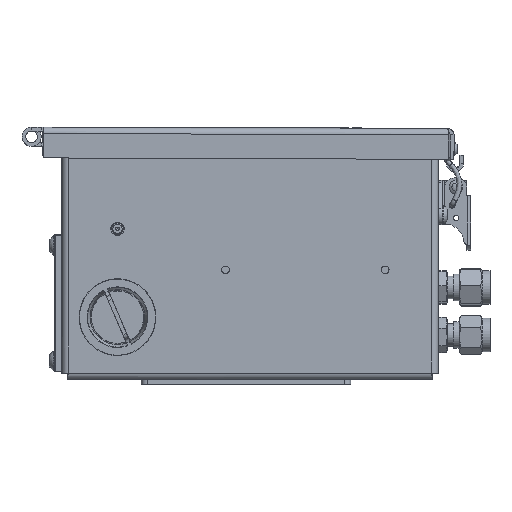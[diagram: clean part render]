
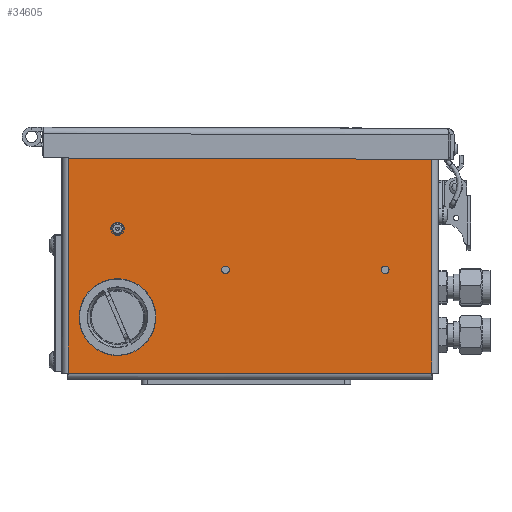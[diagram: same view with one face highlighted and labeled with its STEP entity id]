
A CAD part, front view. The second image highlights one B-rep face of the part: STEP entity #34605.
In plain terms, the highlighted planar face has unit normal (0, -1, 0).
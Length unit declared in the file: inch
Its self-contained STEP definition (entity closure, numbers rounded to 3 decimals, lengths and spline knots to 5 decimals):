
#79 = ORIENTED_EDGE ( 'NONE', *, *, #42367, .T. ) ;
#188 = CIRCLE ( 'NONE', #30347, 0.4375 ) ;
#3290 = EDGE_CURVE ( 'NONE', #29362, #43996, #23630, .T. ) ;
#3475 = EDGE_LOOP ( 'NONE', ( #48882 ) ) ;
#4173 = CIRCLE ( 'NONE', #26308, 0.0625 ) ;
#4290 = CARTESIAN_POINT ( 'NONE',  ( -2.90675, -0.063, -3.75263 ) ) ;
#5143 = LINE ( 'NONE', #25296, #27907 ) ;
#5281 = VERTEX_POINT ( 'NONE', #19300 ) ;
#6674 = CARTESIAN_POINT ( 'NONE',  ( -2.89522, -0.063, -0.10237 ) ) ;
#6987 = CARTESIAN_POINT ( 'NONE',  ( 3.00908, -0.063, 0. ) ) ;
#7204 = DIRECTION ( 'NONE',  ( 0., 0., -1. ) ) ;
#8878 = EDGE_CURVE ( 'NONE', #42762, #42762, #33193, .T. ) ;
#9061 = DIRECTION ( 'NONE',  ( 0., 0., -1. ) ) ;
#9096 = CARTESIAN_POINT ( 'NONE',  ( 3.02504, -0.063, -3.75263 ) ) ;
#9378 = FACE_BOUND ( 'NONE', #56620, .T. ) ;
#10327 = EDGE_LOOP ( 'NONE', ( #28943 ) ) ;
#11863 = EDGE_CURVE ( 'NONE', #48759, #48759, #4173, .T. ) ;
#12878 = DIRECTION ( 'NONE',  ( 0., 0., -1. ) ) ;
#12951 = EDGE_LOOP ( 'NONE', ( #59622, #33684, #60794, #24351, #41969, #24502, #26028, #57595, #39700, #79 ) ) ;
#12994 = DIRECTION ( 'NONE',  ( -1., 0., 0. ) ) ;
#14764 = FACE_BOUND ( 'NONE', #16223, .T. ) ;
#16120 = DIRECTION ( 'NONE',  ( 0., 0., -1. ) ) ;
#16223 = EDGE_LOOP ( 'NONE', ( #52543 ) ) ;
#16914 = DIRECTION ( 'NONE',  ( 0., 0., -1. ) ) ;
#17116 = LINE ( 'NONE', #45504, #32332 ) ;
#18127 = CIRCLE ( 'NONE', #60430, 0.0625 ) ;
#18558 = ORIENTED_EDGE ( 'NONE', *, *, #20636, .F. ) ;
#18628 = EDGE_CURVE ( 'NONE', #39495, #46887, #17116, .T. ) ;
#18827 = VECTOR ( 'NONE', #28010, 39.37008 ) ;
#19300 = CARTESIAN_POINT ( 'NONE',  ( 3.00908, -0.063, -0.09647 ) ) ;
#20636 = EDGE_CURVE ( 'NONE', #23677, #23677, #188, .T. ) ;
#20897 = VERTEX_POINT ( 'NONE', #6674 ) ;
#21622 = LINE ( 'NONE', #40534, #42964 ) ;
#22056 = LINE ( 'NONE', #50147, #53965 ) ;
#23630 = LINE ( 'NONE', #42878, #36360 ) ;
#23677 = VERTEX_POINT ( 'NONE', #58346 ) ;
#24157 = CARTESIAN_POINT ( 'NONE',  ( 3.00908, -0.063, -3.855 ) ) ;
#24351 = ORIENTED_EDGE ( 'NONE', *, *, #39658, .T. ) ;
#24502 = ORIENTED_EDGE ( 'NONE', *, *, #53811, .T. ) ;
#24754 = CARTESIAN_POINT ( 'NONE',  ( 2.26641, -0.063, -2.1355 ) ) ;
#25296 = CARTESIAN_POINT ( 'NONE',  ( 3.02504, -0.063, -3.76416 ) ) ;
#25481 = CARTESIAN_POINT ( 'NONE',  ( -2.09159, -0.063, -1.405 ) ) ;
#25846 = DIRECTION ( 'NONE',  ( 0., 0., -1. ) ) ;
#26028 = ORIENTED_EDGE ( 'NONE', *, *, #3290, .F. ) ;
#26308 = AXIS2_PLACEMENT_3D ( 'NONE', #60799, #56089, #12878 ) ;
#26747 = CARTESIAN_POINT ( 'NONE',  ( 3.02504, -0.063, -3.76416 ) ) ;
#27079 = CARTESIAN_POINT ( 'NONE',  ( 2.97758, -0.063, -3.855 ) ) ;
#27907 = VECTOR ( 'NONE', #35104, 39.37008 ) ;
#28010 = DIRECTION ( 'NONE',  ( 0., 0., -1. ) ) ;
#28192 = AXIS2_PLACEMENT_3D ( 'NONE', #25481, #36521, #7204 ) ;
#28922 = LINE ( 'NONE', #24157, #29129 ) ;
#28938 = DIRECTION ( 'NONE',  ( 0., -1., 0. ) ) ;
#28943 = ORIENTED_EDGE ( 'NONE', *, *, #11863, .F. ) ;
#29129 = VECTOR ( 'NONE', #16914, 39.37008 ) ;
#29362 = VERTEX_POINT ( 'NONE', #6987 ) ;
#29715 = EDGE_CURVE ( 'NONE', #20897, #40894, #56996, .T. ) ;
#30347 = AXIS2_PLACEMENT_3D ( 'NONE', #51178, #46436, #36993 ) ;
#30356 = AXIS2_PLACEMENT_3D ( 'NONE', #47557, #28938, #9061 ) ;
#30714 = CARTESIAN_POINT ( 'NONE',  ( 2.97758, -0.063, -0.09647 ) ) ;
#31860 = LINE ( 'NONE', #27079, #39706 ) ;
#31909 = CARTESIAN_POINT ( 'NONE',  ( -0.33359, -0.063, -2.073 ) ) ;
#32324 = CARTESIAN_POINT ( 'NONE',  ( 3.02504, -0.063, -0.06497 ) ) ;
#32332 = VECTOR ( 'NONE', #12994, 39.37008 ) ;
#32461 = CARTESIAN_POINT ( 'NONE',  ( -2.89522, -0.063, 0. ) ) ;
#33193 = CIRCLE ( 'NONE', #28192, 0.0945 ) ;
#33539 = EDGE_CURVE ( 'NONE', #29362, #5281, #28922, .T. ) ;
#33684 = ORIENTED_EDGE ( 'NONE', *, *, #45458, .T. ) ;
#33868 = CARTESIAN_POINT ( 'NONE',  ( -0.33359, -0.063, -2.1355 ) ) ;
#33904 = CARTESIAN_POINT ( 'NONE',  ( 3.02504, -0.063, 0. ) ) ;
#34000 = PLANE ( 'NONE',  #30356 ) ;
#34605 = ADVANCED_FACE ( 'NONE', ( #39023, #52578, #14764, #9378, #57605 ), #34000, .T. ) ;
#35104 = DIRECTION ( 'NONE',  ( 0., 0., 1. ) ) ;
#36360 = VECTOR ( 'NONE', #62070, 39.37008 ) ;
#36432 = DIRECTION ( 'NONE',  ( -1., 0., 0. ) ) ;
#36521 = DIRECTION ( 'NONE',  ( 0., -1., 0. ) ) ;
#36790 = LINE ( 'NONE', #4290, #40436 ) ;
#36924 = CARTESIAN_POINT ( 'NONE',  ( -2.89522, -0.063, -3.75263 ) ) ;
#36993 = DIRECTION ( 'NONE',  ( 0., 0., -1. ) ) ;
#37243 = VERTEX_POINT ( 'NONE', #30714 ) ;
#37563 = EDGE_CURVE ( 'NONE', #42688, #42688, #18127, .T. ) ;
#37950 = VECTOR ( 'NONE', #55139, 39.37008 ) ;
#39023 = FACE_BOUND ( 'NONE', #10327, .T. ) ;
#39495 = VERTEX_POINT ( 'NONE', #60859 ) ;
#39658 = EDGE_CURVE ( 'NONE', #40894, #59640, #36790, .T. ) ;
#39700 = ORIENTED_EDGE ( 'NONE', *, *, #51934, .T. ) ;
#39706 = VECTOR ( 'NONE', #41584, 39.37008 ) ;
#40436 = VECTOR ( 'NONE', #56008, 39.37008 ) ;
#40534 = CARTESIAN_POINT ( 'NONE',  ( -2.99759, -0.063, -0.09647 ) ) ;
#40713 = DIRECTION ( 'NONE',  ( 0., -1., 0. ) ) ;
#40894 = VERTEX_POINT ( 'NONE', #36924 ) ;
#41584 = DIRECTION ( 'NONE',  ( 0., 0., 1. ) ) ;
#41969 = ORIENTED_EDGE ( 'NONE', *, *, #61523, .T. ) ;
#42367 = EDGE_CURVE ( 'NONE', #37243, #39495, #31860, .T. ) ;
#42688 = VERTEX_POINT ( 'NONE', #33868 ) ;
#42762 = VERTEX_POINT ( 'NONE', #57547 ) ;
#42878 = CARTESIAN_POINT ( 'NONE',  ( -2.99759, -0.063, 0. ) ) ;
#42964 = VECTOR ( 'NONE', #36432, 39.37008 ) ;
#43996 = VERTEX_POINT ( 'NONE', #33904 ) ;
#45458 = EDGE_CURVE ( 'NONE', #46887, #20897, #22056, .T. ) ;
#45504 = CARTESIAN_POINT ( 'NONE',  ( 2.97758, -0.063, -0.06497 ) ) ;
#46436 = DIRECTION ( 'NONE',  ( 0., -1., 0. ) ) ;
#46887 = VERTEX_POINT ( 'NONE', #53092 ) ;
#47557 = CARTESIAN_POINT ( 'NONE',  ( -2.99759, -0.063, -3.855 ) ) ;
#48759 = VERTEX_POINT ( 'NONE', #24754 ) ;
#48882 = ORIENTED_EDGE ( 'NONE', *, *, #37563, .F. ) ;
#50147 = CARTESIAN_POINT ( 'NONE',  ( -2.89522, -0.063, 0. ) ) ;
#51178 = CARTESIAN_POINT ( 'NONE',  ( -2.09159, -0.063, -2.843 ) ) ;
#51934 = EDGE_CURVE ( 'NONE', #5281, #37243, #21622, .T. ) ;
#51955 = VERTEX_POINT ( 'NONE', #32324 ) ;
#52543 = ORIENTED_EDGE ( 'NONE', *, *, #8878, .F. ) ;
#52578 = FACE_BOUND ( 'NONE', #3475, .T. ) ;
#53092 = CARTESIAN_POINT ( 'NONE',  ( -2.89522, -0.063, -0.06497 ) ) ;
#53811 = EDGE_CURVE ( 'NONE', #51955, #43996, #54509, .T. ) ;
#53965 = VECTOR ( 'NONE', #25846, 39.37008 ) ;
#54509 = LINE ( 'NONE', #26747, #37950 ) ;
#55139 = DIRECTION ( 'NONE',  ( 0., 0., 1. ) ) ;
#56008 = DIRECTION ( 'NONE',  ( 1., 0., 0. ) ) ;
#56089 = DIRECTION ( 'NONE',  ( 0., -1., 0. ) ) ;
#56620 = EDGE_LOOP ( 'NONE', ( #18558 ) ) ;
#56996 = LINE ( 'NONE', #32461, #18827 ) ;
#57547 = CARTESIAN_POINT ( 'NONE',  ( -2.09159, -0.063, -1.4995 ) ) ;
#57595 = ORIENTED_EDGE ( 'NONE', *, *, #33539, .T. ) ;
#57605 = FACE_OUTER_BOUND ( 'NONE', #12951, .T. ) ;
#58346 = CARTESIAN_POINT ( 'NONE',  ( -2.09159, -0.063, -3.2805 ) ) ;
#59622 = ORIENTED_EDGE ( 'NONE', *, *, #18628, .T. ) ;
#59640 = VERTEX_POINT ( 'NONE', #9096 ) ;
#60430 = AXIS2_PLACEMENT_3D ( 'NONE', #31909, #40713, #16120 ) ;
#60794 = ORIENTED_EDGE ( 'NONE', *, *, #29715, .T. ) ;
#60799 = CARTESIAN_POINT ( 'NONE',  ( 2.26641, -0.063, -2.073 ) ) ;
#60859 = CARTESIAN_POINT ( 'NONE',  ( 2.97758, -0.063, -0.06497 ) ) ;
#61523 = EDGE_CURVE ( 'NONE', #59640, #51955, #5143, .T. ) ;
#62070 = DIRECTION ( 'NONE',  ( 1., 0., 0. ) ) ;
